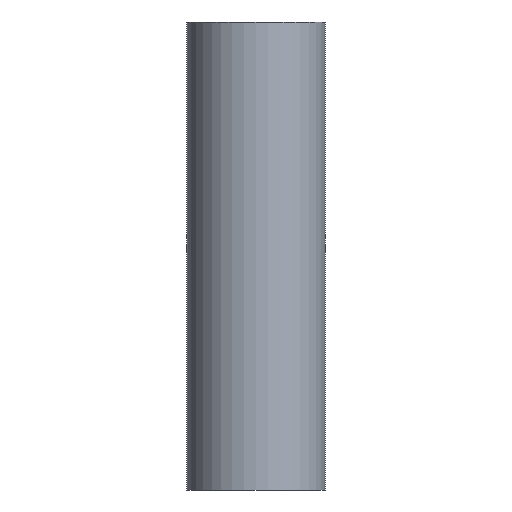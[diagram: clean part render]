
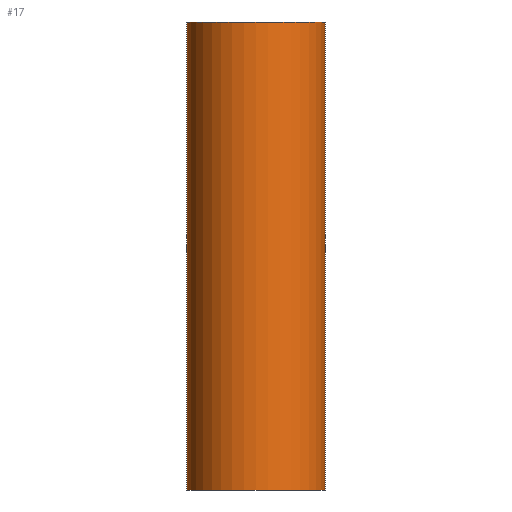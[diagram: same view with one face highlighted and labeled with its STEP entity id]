
A CAD part, front view. The second image highlights one B-rep face of the part: STEP entity #17.
In plain terms, the highlighted cylindrical face has radius 30.15 mm (diameter 60.3 mm), a full revolution.
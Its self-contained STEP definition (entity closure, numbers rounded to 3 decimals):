
#17 = ADVANCED_FACE('',(#18),#32,.T.);
#18 = FACE_BOUND('',#19,.T.);
#19 = EDGE_LOOP('',(#20,#50,#81,#82));
#20 = ORIENTED_EDGE('',*,*,#21,.T.);
#21 = EDGE_CURVE('',#22,#24,#26,.T.);
#22 = VERTEX_POINT('',#23);
#23 = CARTESIAN_POINT('',(-30.15,0.,0.));
#24 = VERTEX_POINT('',#25);
#25 = CARTESIAN_POINT('',(-30.15,0.,204.));
#26 = SEAM_CURVE('',#27,(#31,#43),.PCURVE_S1.);
#27 = LINE('',#28,#29);
#28 = CARTESIAN_POINT('',(-30.15,0.,0.));
#29 = VECTOR('',#30,1.);
#30 = DIRECTION('',(-0.,-0.,1.));
#31 = PCURVE('',#32,#37);
#32 = CYLINDRICAL_SURFACE('',#33,30.15);
#33 = AXIS2_PLACEMENT_3D('',#34,#35,#36);
#34 = CARTESIAN_POINT('',(0.,0.,0.));
#35 = DIRECTION('',(0.,-0.,-1.));
#36 = DIRECTION('',(-1.,-0.,-0.));
#37 = DEFINITIONAL_REPRESENTATION('',(#38),#42);
#38 = LINE('',#39,#40);
#39 = CARTESIAN_POINT('',(0.,0.));
#40 = VECTOR('',#41,1.);
#41 = DIRECTION('',(0.,-1.));
#42 = ( GEOMETRIC_REPRESENTATION_CONTEXT(2) 
PARAMETRIC_REPRESENTATION_CONTEXT() REPRESENTATION_CONTEXT('2D SPACE',''
  ) );
#43 = PCURVE('',#32,#44);
#44 = DEFINITIONAL_REPRESENTATION('',(#45),#49);
#45 = LINE('',#46,#47);
#46 = CARTESIAN_POINT('',(6.283,0.));
#47 = VECTOR('',#48,1.);
#48 = DIRECTION('',(0.,-1.));
#49 = ( GEOMETRIC_REPRESENTATION_CONTEXT(2) 
PARAMETRIC_REPRESENTATION_CONTEXT() REPRESENTATION_CONTEXT('2D SPACE',''
  ) );
#50 = ORIENTED_EDGE('',*,*,#51,.T.);
#51 = EDGE_CURVE('',#24,#24,#52,.T.);
#52 = SURFACE_CURVE('',#53,(#58,#65),.PCURVE_S1.);
#53 = CIRCLE('',#54,30.15);
#54 = AXIS2_PLACEMENT_3D('',#55,#56,#57);
#55 = CARTESIAN_POINT('',(0.,0.,204.));
#56 = DIRECTION('',(0.,0.,-1.));
#57 = DIRECTION('',(-1.,-0.,-0.));
#58 = PCURVE('',#32,#59);
#59 = DEFINITIONAL_REPRESENTATION('',(#60),#64);
#60 = LINE('',#61,#62);
#61 = CARTESIAN_POINT('',(0.,-204.));
#62 = VECTOR('',#63,1.);
#63 = DIRECTION('',(1.,0.));
#64 = ( GEOMETRIC_REPRESENTATION_CONTEXT(2) 
PARAMETRIC_REPRESENTATION_CONTEXT() REPRESENTATION_CONTEXT('2D SPACE',''
  ) );
#65 = PCURVE('',#66,#71);
#66 = PLANE('',#67);
#67 = AXIS2_PLACEMENT_3D('',#68,#69,#70);
#68 = CARTESIAN_POINT('',(0.,0.,204.));
#69 = DIRECTION('',(-0.,-0.,1.));
#70 = DIRECTION('',(1.,0.,0.));
#71 = DEFINITIONAL_REPRESENTATION('',(#72),#80);
#72 = ( BOUNDED_CURVE() B_SPLINE_CURVE(2,(#73,#74,#75,#76,#77,#78,#79),
.UNSPECIFIED.,.T.,.F.) B_SPLINE_CURVE_WITH_KNOTS((1,2,2,2,2,1),(
    -2.094,0.,2.094,4.189,6.283,
8.378),.UNSPECIFIED.) CURVE() GEOMETRIC_REPRESENTATION_ITEM() 
RATIONAL_B_SPLINE_CURVE((1.,0.5,1.,0.5,1.,0.5,1.)) REPRESENTATION_ITEM(
  '') );
#73 = CARTESIAN_POINT('',(-30.15,0.));
#74 = CARTESIAN_POINT('',(-30.15,52.221));
#75 = CARTESIAN_POINT('',(15.075,26.111));
#76 = CARTESIAN_POINT('',(60.3,0.));
#77 = CARTESIAN_POINT('',(15.075,-26.111));
#78 = CARTESIAN_POINT('',(-30.15,-52.221));
#79 = CARTESIAN_POINT('',(-30.15,0.));
#80 = ( GEOMETRIC_REPRESENTATION_CONTEXT(2) 
PARAMETRIC_REPRESENTATION_CONTEXT() REPRESENTATION_CONTEXT('2D SPACE',''
  ) );
#81 = ORIENTED_EDGE('',*,*,#21,.F.);
#82 = ORIENTED_EDGE('',*,*,#83,.F.);
#83 = EDGE_CURVE('',#22,#22,#84,.T.);
#84 = SURFACE_CURVE('',#85,(#90,#97),.PCURVE_S1.);
#85 = CIRCLE('',#86,30.15);
#86 = AXIS2_PLACEMENT_3D('',#87,#88,#89);
#87 = CARTESIAN_POINT('',(0.,0.,0.));
#88 = DIRECTION('',(0.,0.,-1.));
#89 = DIRECTION('',(-1.,-0.,-0.));
#90 = PCURVE('',#32,#91);
#91 = DEFINITIONAL_REPRESENTATION('',(#92),#96);
#92 = LINE('',#93,#94);
#93 = CARTESIAN_POINT('',(0.,0.));
#94 = VECTOR('',#95,1.);
#95 = DIRECTION('',(1.,0.));
#96 = ( GEOMETRIC_REPRESENTATION_CONTEXT(2) 
PARAMETRIC_REPRESENTATION_CONTEXT() REPRESENTATION_CONTEXT('2D SPACE',''
  ) );
#97 = PCURVE('',#98,#103);
#98 = PLANE('',#99);
#99 = AXIS2_PLACEMENT_3D('',#100,#101,#102);
#100 = CARTESIAN_POINT('',(0.,0.,0.));
#101 = DIRECTION('',(-0.,-0.,1.));
#102 = DIRECTION('',(1.,0.,0.));
#103 = DEFINITIONAL_REPRESENTATION('',(#104),#112);
#104 = ( BOUNDED_CURVE() B_SPLINE_CURVE(2,(#105,#106,#107,#108,#109,#110
,#111),.UNSPECIFIED.,.T.,.F.) B_SPLINE_CURVE_WITH_KNOTS((1,2,2,2,2,1),(
    -2.094,0.,2.094,4.189,6.283,
8.378),.UNSPECIFIED.) CURVE() GEOMETRIC_REPRESENTATION_ITEM() 
RATIONAL_B_SPLINE_CURVE((1.,0.5,1.,0.5,1.,0.5,1.)) REPRESENTATION_ITEM(
  '') );
#105 = CARTESIAN_POINT('',(-30.15,0.));
#106 = CARTESIAN_POINT('',(-30.15,52.221));
#107 = CARTESIAN_POINT('',(15.075,26.111));
#108 = CARTESIAN_POINT('',(60.3,0.));
#109 = CARTESIAN_POINT('',(15.075,-26.111));
#110 = CARTESIAN_POINT('',(-30.15,-52.221));
#111 = CARTESIAN_POINT('',(-30.15,0.));
#112 = ( GEOMETRIC_REPRESENTATION_CONTEXT(2) 
PARAMETRIC_REPRESENTATION_CONTEXT() REPRESENTATION_CONTEXT('2D SPACE',''
  ) );
